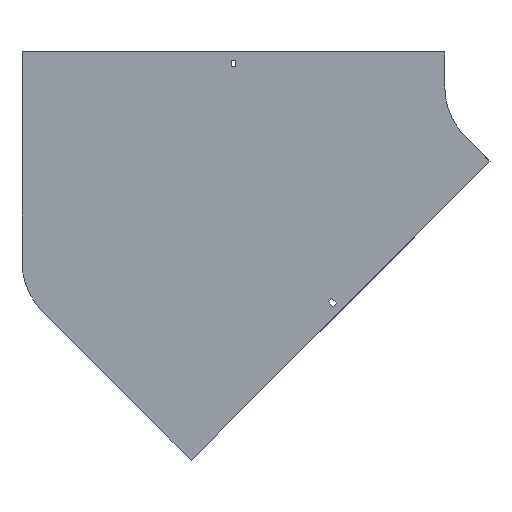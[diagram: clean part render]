
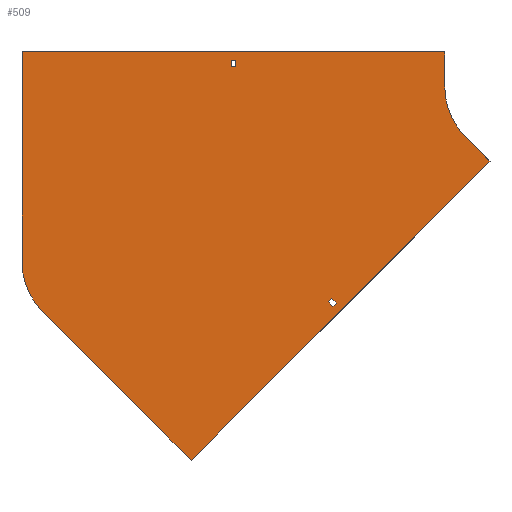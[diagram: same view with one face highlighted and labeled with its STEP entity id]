
A CAD part, front view. The second image highlights one B-rep face of the part: STEP entity #509.
In plain terms, the highlighted planar face has unit normal (0, -1, 0).
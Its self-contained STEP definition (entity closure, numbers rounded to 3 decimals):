
#3 = CARTESIAN_POINT ( 'NONE',  ( -261.453, 0., -302.465 ) ) ;
#16 = EDGE_LOOP ( 'NONE', ( #1083, #786, #392, #909 ) ) ;
#17 = AXIS2_PLACEMENT_3D ( 'NONE', #607, #178, #613 ) ;
#32 = EDGE_CURVE ( 'NONE', #172, #1336, #342, .T. ) ;
#40 = VERTEX_POINT ( 'NONE', #825 ) ;
#43 = EDGE_CURVE ( 'NONE', #1199, #1807, #499, .T. ) ;
#52 = CARTESIAN_POINT ( 'NONE',  ( -259.685, 0., -313.425 ) ) ;
#78 = LINE ( 'NONE', #1285, #1174 ) ;
#90 = CARTESIAN_POINT ( 'NONE',  ( -405.25, 0., 38. ) ) ;
#111 = VERTEX_POINT ( 'NONE', #281 ) ;
#139 = DIRECTION ( 'NONE',  ( -0.707, 0., -0.707 ) ) ;
#145 = EDGE_LOOP ( 'NONE', ( #1531, #1029, #561, #297, #985, #1822, #1047, #1819 ) ) ;
#146 = ORIENTED_EDGE ( 'NONE', *, *, #617, .F. ) ;
#149 = LINE ( 'NONE', #1669, #1770 ) ;
#160 = FACE_OUTER_BOUND ( 'NONE', #145, .T. ) ;
#172 = VERTEX_POINT ( 'NONE', #706 ) ;
#178 = DIRECTION ( 'NONE',  ( 0., -1., 0. ) ) ;
#214 = EDGE_CURVE ( 'NONE', #1445, #1189, #775, .T. ) ;
#230 = CARTESIAN_POINT ( 'NONE',  ( 0., 0., 0. ) ) ;
#249 = CARTESIAN_POINT ( 'NONE',  ( -704., 0., -250.185 ) ) ;
#256 = DIRECTION ( 'NONE',  ( 0., 0., -1. ) ) ;
#258 = VECTOR ( 'NONE', #1108, 1000. ) ;
#266 = EDGE_CURVE ( 'NONE', #1536, #544, #149, .T. ) ;
#269 = CARTESIAN_POINT ( 'NONE',  ( -261.453, 0., -302.465 ) ) ;
#275 = DIRECTION ( 'NONE',  ( 0., 1., 0. ) ) ;
#281 = CARTESIAN_POINT ( 'NONE',  ( -100., 0., 50. ) ) ;
#297 = ORIENTED_EDGE ( 'NONE', *, *, #1768, .F. ) ;
#322 = VECTOR ( 'NONE', #1088, 1000. ) ;
#342 = LINE ( 'NONE', #1286, #1486 ) ;
#382 = EDGE_CURVE ( 'NONE', #111, #1445, #1288, .T. ) ;
#392 = ORIENTED_EDGE ( 'NONE', *, *, #960, .T. ) ;
#412 = CARTESIAN_POINT ( 'NONE',  ( -462.448, 0., -533.159 ) ) ;
#439 = EDGE_CURVE ( 'NONE', #463, #1199, #1007, .T. ) ;
#444 = DIRECTION ( 'NONE',  ( 0.707, 0., 0.707 ) ) ;
#463 = VERTEX_POINT ( 'NONE', #1442 ) ;
#499 = LINE ( 'NONE', #815, #1761 ) ;
#509 = ADVANCED_FACE ( 'NONE', ( #599, #160, #1382 ), #1830, .T. ) ;
#529 = DIRECTION ( 'NONE',  ( 1., 0., 0. ) ) ;
#544 = VERTEX_POINT ( 'NONE', #1205 ) ;
#561 = ORIENTED_EDGE ( 'NONE', *, *, #929, .F. ) ;
#563 = LINE ( 'NONE', #1497, #1428 ) ;
#588 = CARTESIAN_POINT ( 'NONE',  ( -674.711, 0., -320.896 ) ) ;
#599 = FACE_BOUND ( 'NONE', #16, .T. ) ;
#606 = CARTESIAN_POINT ( 'NONE',  ( -100., 0., 0. ) ) ;
#607 = CARTESIAN_POINT ( 'NONE',  ( 0., 0., 0. ) ) ;
#613 = DIRECTION ( 'NONE',  ( 0., 0., -1. ) ) ;
#617 = EDGE_CURVE ( 'NONE', #1705, #1536, #1419, .T. ) ;
#646 = DIRECTION ( 'NONE',  ( 0.707, 0., -0.707 ) ) ;
#660 = VECTOR ( 'NONE', #529, 1000. ) ;
#685 = CARTESIAN_POINT ( 'NONE',  ( -405.25, 0., 29. ) ) ;
#699 = CARTESIAN_POINT ( 'NONE',  ( -398.75, 0., 29. ) ) ;
#705 = EDGE_CURVE ( 'NONE', #1189, #172, #1860, .T. ) ;
#706 = CARTESIAN_POINT ( 'NONE',  ( -35.355, 0., -106.066 ) ) ;
#722 = DIRECTION ( 'NONE',  ( 0., 0., -1. ) ) ;
#775 = CIRCLE ( 'NONE', #1279, 100. ) ;
#778 = VERTEX_POINT ( 'NONE', #249 ) ;
#786 = ORIENTED_EDGE ( 'NONE', *, *, #1346, .T. ) ;
#815 = CARTESIAN_POINT ( 'NONE',  ( -405.25, 0., 29. ) ) ;
#825 = CARTESIAN_POINT ( 'NONE',  ( -704., 0., 50. ) ) ;
#846 = DIRECTION ( 'NONE',  ( 0., -1., 0. ) ) ;
#853 = VECTOR ( 'NONE', #1359, 1000. ) ;
#893 = VECTOR ( 'NONE', #1316, 1000. ) ;
#909 = ORIENTED_EDGE ( 'NONE', *, *, #439, .T. ) ;
#915 = CARTESIAN_POINT ( 'NONE',  ( -704., 0., -250.185 ) ) ;
#926 = CARTESIAN_POINT ( 'NONE',  ( -70.711, 0., -70.711 ) ) ;
#929 = EDGE_CURVE ( 'NONE', #1360, #778, #1587, .T. ) ;
#948 = DIRECTION ( 'NONE',  ( -0.707, 0., -0.707 ) ) ;
#955 = VECTOR ( 'NONE', #646, 1000. ) ;
#960 = EDGE_CURVE ( 'NONE', #1910, #463, #1463, .T. ) ;
#969 = LINE ( 'NONE', #1892, #660 ) ;
#985 = ORIENTED_EDGE ( 'NONE', *, *, #32, .F. ) ;
#997 = EDGE_CURVE ( 'NONE', #778, #40, #1823, .T. ) ;
#1002 = VECTOR ( 'NONE', #722, 1000. ) ;
#1007 = LINE ( 'NONE', #1156, #1924 ) ;
#1023 = DIRECTION ( 'NONE',  ( 1., 0., 0. ) ) ;
#1029 = ORIENTED_EDGE ( 'NONE', *, *, #997, .F. ) ;
#1039 = ORIENTED_EDGE ( 'NONE', *, *, #1408, .F. ) ;
#1047 = ORIENTED_EDGE ( 'NONE', *, *, #214, .F. ) ;
#1083 = ORIENTED_EDGE ( 'NONE', *, *, #43, .T. ) ;
#1088 = DIRECTION ( 'NONE',  ( 0., 0., 1. ) ) ;
#1108 = DIRECTION ( 'NONE',  ( 0.707, 0., -0.707 ) ) ;
#1125 = CARTESIAN_POINT ( 'NONE',  ( -398.75, 0., 38. ) ) ;
#1156 = CARTESIAN_POINT ( 'NONE',  ( -405.25, 0., 29. ) ) ;
#1174 = VECTOR ( 'NONE', #1721, 1000. ) ;
#1189 = VERTEX_POINT ( 'NONE', #926 ) ;
#1199 = VERTEX_POINT ( 'NONE', #685 ) ;
#1205 = CARTESIAN_POINT ( 'NONE',  ( -255.089, 0., -308.829 ) ) ;
#1206 = ORIENTED_EDGE ( 'NONE', *, *, #1692, .F. ) ;
#1279 = AXIS2_PLACEMENT_3D ( 'NONE', #230, #846, #256 ) ;
#1285 = CARTESIAN_POINT ( 'NONE',  ( -462.448, 0., -533.159 ) ) ;
#1286 = CARTESIAN_POINT ( 'NONE',  ( -35.355, 0., -106.066 ) ) ;
#1288 = LINE ( 'NONE', #1632, #1002 ) ;
#1316 = DIRECTION ( 'NONE',  ( 0., 0., -1. ) ) ;
#1336 = VERTEX_POINT ( 'NONE', #412 ) ;
#1346 = EDGE_CURVE ( 'NONE', #1807, #1910, #563, .T. ) ;
#1359 = DIRECTION ( 'NONE',  ( -0.707, 0., 0.707 ) ) ;
#1360 = VERTEX_POINT ( 'NONE', #588 ) ;
#1367 = VERTEX_POINT ( 'NONE', #3 ) ;
#1382 = FACE_BOUND ( 'NONE', #1753, .T. ) ;
#1408 = EDGE_CURVE ( 'NONE', #1367, #1705, #1644, .T. ) ;
#1419 = LINE ( 'NONE', #1867, #258 ) ;
#1428 = VECTOR ( 'NONE', #1023, 1000. ) ;
#1442 = CARTESIAN_POINT ( 'NONE',  ( -398.75, 0., 29. ) ) ;
#1445 = VERTEX_POINT ( 'NONE', #606 ) ;
#1463 = LINE ( 'NONE', #699, #893 ) ;
#1472 = DIRECTION ( 'NONE',  ( -1., 0., 0. ) ) ;
#1486 = VECTOR ( 'NONE', #948, 1000. ) ;
#1497 = CARTESIAN_POINT ( 'NONE',  ( -405.25, 0., 38. ) ) ;
#1510 = CARTESIAN_POINT ( 'NONE',  ( -266.049, 0., -307.061 ) ) ;
#1531 = ORIENTED_EDGE ( 'NONE', *, *, #1786, .F. ) ;
#1536 = VERTEX_POINT ( 'NONE', #52 ) ;
#1553 = CARTESIAN_POINT ( 'NONE',  ( -70.711, 0., -70.711 ) ) ;
#1568 = DIRECTION ( 'NONE',  ( 0., 0., 1. ) ) ;
#1587 = CIRCLE ( 'NONE', #1844, 100. ) ;
#1632 = CARTESIAN_POINT ( 'NONE',  ( -100., 0., 50. ) ) ;
#1644 = LINE ( 'NONE', #1510, #1843 ) ;
#1652 = LINE ( 'NONE', #269, #853 ) ;
#1669 = CARTESIAN_POINT ( 'NONE',  ( -259.685, 0., -313.425 ) ) ;
#1692 = EDGE_CURVE ( 'NONE', #544, #1367, #1652, .T. ) ;
#1705 = VERTEX_POINT ( 'NONE', #1775 ) ;
#1721 = DIRECTION ( 'NONE',  ( -0.707, 0., 0.707 ) ) ;
#1753 = EDGE_LOOP ( 'NONE', ( #1930, #146, #1039, #1206 ) ) ;
#1761 = VECTOR ( 'NONE', #1568, 1000. ) ;
#1768 = EDGE_CURVE ( 'NONE', #1336, #1360, #78, .T. ) ;
#1770 = VECTOR ( 'NONE', #444, 1000. ) ;
#1775 = CARTESIAN_POINT ( 'NONE',  ( -266.049, 0., -307.061 ) ) ;
#1786 = EDGE_CURVE ( 'NONE', #40, #111, #969, .T. ) ;
#1806 = DIRECTION ( 'NONE',  ( 0., 0., 1. ) ) ;
#1807 = VERTEX_POINT ( 'NONE', #90 ) ;
#1819 = ORIENTED_EDGE ( 'NONE', *, *, #382, .F. ) ;
#1822 = ORIENTED_EDGE ( 'NONE', *, *, #705, .F. ) ;
#1823 = LINE ( 'NONE', #915, #322 ) ;
#1830 = PLANE ( 'NONE',  #17 ) ;
#1843 = VECTOR ( 'NONE', #139, 1000. ) ;
#1844 = AXIS2_PLACEMENT_3D ( 'NONE', #1899, #275, #1806 ) ;
#1860 = LINE ( 'NONE', #1553, #955 ) ;
#1867 = CARTESIAN_POINT ( 'NONE',  ( -266.049, 0., -307.061 ) ) ;
#1892 = CARTESIAN_POINT ( 'NONE',  ( -704., 0., 50. ) ) ;
#1899 = CARTESIAN_POINT ( 'NONE',  ( -604., 0., -250.185 ) ) ;
#1910 = VERTEX_POINT ( 'NONE', #1125 ) ;
#1924 = VECTOR ( 'NONE', #1472, 1000. ) ;
#1930 = ORIENTED_EDGE ( 'NONE', *, *, #266, .F. ) ;
